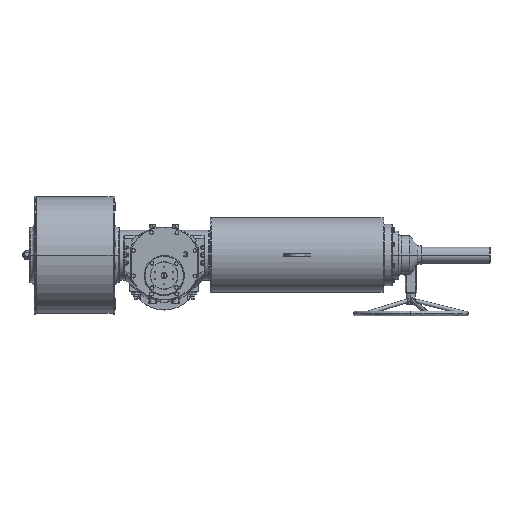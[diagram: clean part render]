
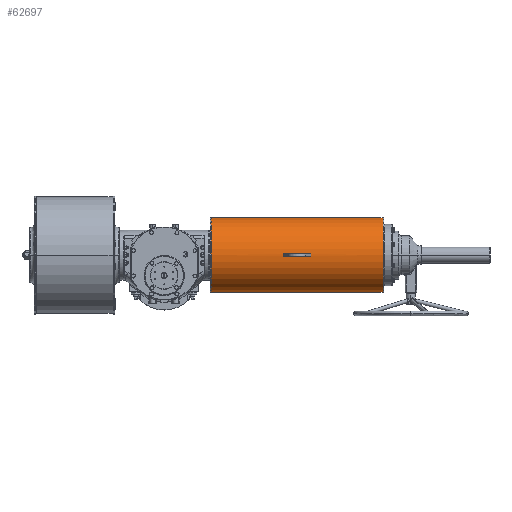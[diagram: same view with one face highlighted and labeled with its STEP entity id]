
A CAD part, top view. The second image highlights one B-rep face of the part: STEP entity #62697.
In plain terms, the highlighted cylindrical face has radius 162.5 mm (diameter 325 mm), a partial arc.
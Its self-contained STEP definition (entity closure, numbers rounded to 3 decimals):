
#1970 = CARTESIAN_POINT ( 'NONE',  ( 519.5, 35.5, 237. ) ) ;
#3750 = AXIS2_PLACEMENT_3D ( 'NONE', #6000, #37606, #84756 ) ;
#4312 = ORIENTED_EDGE ( 'NONE', *, *, #83769, .F. ) ;
#4345 = ORIENTED_EDGE ( 'NONE', *, *, #63463, .T. ) ;
#4705 = ORIENTED_EDGE ( 'NONE', *, *, #42283, .T. ) ;
#5704 = AXIS2_PLACEMENT_3D ( 'NONE', #70929, #39330, #47618 ) ;
#5840 = ORIENTED_EDGE ( 'NONE', *, *, #11290, .T. ) ;
#6000 = CARTESIAN_POINT ( 'NONE',  ( 639.5, 35.5, 74.5 ) ) ;
#6639 = CARTESIAN_POINT ( 'NONE',  ( 519.5, 35.5, 74.5 ) ) ;
#8039 = EDGE_CURVE ( 'NONE', #30702, #82574, #56864, .T. ) ;
#8495 = CARTESIAN_POINT ( 'NONE',  ( 954., 198., 74.5 ) ) ;
#10316 = ORIENTED_EDGE ( 'NONE', *, *, #43528, .T. ) ;
#10515 = DIRECTION ( 'NONE',  ( -1., 0., 0. ) ) ;
#11290 = EDGE_CURVE ( 'NONE', #71006, #30702, #98875, .T. ) ;
#11404 = VERTEX_POINT ( 'NONE', #45137 ) ;
#11789 = FACE_BOUND ( 'NONE', #70972, .T. ) ;
#12001 = AXIS2_PLACEMENT_3D ( 'NONE', #68266, #75017, #27898 ) ;
#13922 = CIRCLE ( 'NONE', #5704, 162.5 ) ;
#18198 = DIRECTION ( 'NONE',  ( -1., 0., 0. ) ) ;
#20709 = EDGE_CURVE ( 'NONE', #11404, #33912, #92979, .T. ) ;
#22139 = EDGE_CURVE ( 'NONE', #87173, #11404, #13922, .T. ) ;
#27898 = DIRECTION ( 'NONE',  ( 0., 1., 0. ) ) ;
#29755 = CIRCLE ( 'NONE', #92685, 162.5 ) ;
#30259 = CIRCLE ( 'NONE', #3750, 162.5 ) ;
#30702 = VERTEX_POINT ( 'NONE', #77482 ) ;
#33519 = VECTOR ( 'NONE', #53610, 1000. ) ;
#33912 = VERTEX_POINT ( 'NONE', #100721 ) ;
#34496 = VERTEX_POINT ( 'NONE', #8495 ) ;
#34631 = DIRECTION ( 'NONE',  ( 1., 0., 0. ) ) ;
#34770 = DIRECTION ( 'NONE',  ( 0., 1., 0. ) ) ;
#35396 = CARTESIAN_POINT ( 'NONE',  ( 519.5, 35.5, 74.5 ) ) ;
#35553 = ORIENTED_EDGE ( 'NONE', *, *, #22139, .T. ) ;
#37386 = EDGE_CURVE ( 'NONE', #52549, #49792, #53745, .T. ) ;
#37606 = DIRECTION ( 'NONE',  ( 1., 0., 0. ) ) ;
#39268 = DIRECTION ( 'NONE',  ( -1., 0., 0. ) ) ;
#39330 = DIRECTION ( 'NONE',  ( 1., 0., 0. ) ) ;
#40890 = DIRECTION ( 'NONE',  ( 0., -1., 0. ) ) ;
#41815 = CARTESIAN_POINT ( 'NONE',  ( 208., 40.5, 236.923 ) ) ;
#42283 = EDGE_CURVE ( 'NONE', #52549, #71006, #29755, .T. ) ;
#43416 = CYLINDRICAL_SURFACE ( 'NONE', #12001, 162.5 ) ;
#43528 = EDGE_CURVE ( 'NONE', #33912, #34496, #94505, .T. ) ;
#44422 = CARTESIAN_POINT ( 'NONE',  ( 208., 30.5, 236.923 ) ) ;
#45137 = CARTESIAN_POINT ( 'NONE',  ( 205., -127., 74.5 ) ) ;
#46504 = AXIS2_PLACEMENT_3D ( 'NONE', #50831, #18198, #34770 ) ;
#47618 = DIRECTION ( 'NONE',  ( 0., 1., 0. ) ) ;
#49792 = VERTEX_POINT ( 'NONE', #76298 ) ;
#50831 = CARTESIAN_POINT ( 'NONE',  ( 954., 35.5, 74.5 ) ) ;
#52224 = FACE_OUTER_BOUND ( 'NONE', #76741, .T. ) ;
#52549 = VERTEX_POINT ( 'NONE', #99964 ) ;
#53610 = DIRECTION ( 'NONE',  ( 1., 0., 0. ) ) ;
#53745 = LINE ( 'NONE', #44422, #88297 ) ;
#54828 = DIRECTION ( 'NONE',  ( 0., 1., 0. ) ) ;
#55606 = VERTEX_POINT ( 'NONE', #81991 ) ;
#56436 = ORIENTED_EDGE ( 'NONE', *, *, #8039, .T. ) ;
#56864 = LINE ( 'NONE', #41815, #94529 ) ;
#59418 = ORIENTED_EDGE ( 'NONE', *, *, #20709, .T. ) ;
#60499 = DIRECTION ( 'NONE',  ( 1., 0., 0. ) ) ;
#62697 = ADVANCED_FACE ( 'NONE', ( #11789, #52224 ), #43416, .T. ) ;
#63410 = AXIS2_PLACEMENT_3D ( 'NONE', #71987, #34631, #40890 ) ;
#63463 = EDGE_CURVE ( 'NONE', #82574, #55606, #91601, .T. ) ;
#63831 = DIRECTION ( 'NONE',  ( 1., 0., 0. ) ) ;
#64184 = ORIENTED_EDGE ( 'NONE', *, *, #76789, .T. ) ;
#68266 = CARTESIAN_POINT ( 'NONE',  ( 208., 35.5, 74.5 ) ) ;
#70146 = CARTESIAN_POINT ( 'NONE',  ( 208., -127., 74.5 ) ) ;
#70929 = CARTESIAN_POINT ( 'NONE',  ( 205., 35.5, 74.5 ) ) ;
#70972 = EDGE_LOOP ( 'NONE', ( #76878, #4705, #5840, #56436, #4345, #64184 ) ) ;
#71006 = VERTEX_POINT ( 'NONE', #1970 ) ;
#71987 = CARTESIAN_POINT ( 'NONE',  ( 639.5, 35.5, 74.5 ) ) ;
#73231 = DIRECTION ( 'NONE',  ( 0., 1., 0. ) ) ;
#75017 = DIRECTION ( 'NONE',  ( 1., 0., 0. ) ) ;
#75643 = VECTOR ( 'NONE', #63831, 1000. ) ;
#76298 = CARTESIAN_POINT ( 'NONE',  ( 639.5, 30.5, 236.923 ) ) ;
#76741 = EDGE_LOOP ( 'NONE', ( #35553, #59418, #10316, #4312 ) ) ;
#76789 = EDGE_CURVE ( 'NONE', #55606, #49792, #30259, .T. ) ;
#76878 = ORIENTED_EDGE ( 'NONE', *, *, #37386, .F. ) ;
#77482 = CARTESIAN_POINT ( 'NONE',  ( 519.5, 40.5, 236.923 ) ) ;
#78850 = CARTESIAN_POINT ( 'NONE',  ( 208., 198., 74.5 ) ) ;
#80180 = DIRECTION ( 'NONE',  ( 1., 0., 0. ) ) ;
#81991 = CARTESIAN_POINT ( 'NONE',  ( 639.5, 35.5, 237. ) ) ;
#82574 = VERTEX_POINT ( 'NONE', #87645 ) ;
#83769 = EDGE_CURVE ( 'NONE', #87173, #34496, #86123, .T. ) ;
#84756 = DIRECTION ( 'NONE',  ( 0., -1., 0. ) ) ;
#86123 = LINE ( 'NONE', #78850, #75643 ) ;
#87173 = VERTEX_POINT ( 'NONE', #100094 ) ;
#87645 = CARTESIAN_POINT ( 'NONE',  ( 639.5, 40.5, 236.923 ) ) ;
#88297 = VECTOR ( 'NONE', #60499, 1000. ) ;
#88909 = AXIS2_PLACEMENT_3D ( 'NONE', #6639, #39268, #54828 ) ;
#91601 = CIRCLE ( 'NONE', #63410, 162.5 ) ;
#92685 = AXIS2_PLACEMENT_3D ( 'NONE', #35396, #10515, #73231 ) ;
#92979 = LINE ( 'NONE', #70146, #33519 ) ;
#94505 = CIRCLE ( 'NONE', #46504, 162.5 ) ;
#94529 = VECTOR ( 'NONE', #80180, 1000. ) ;
#98875 = CIRCLE ( 'NONE', #88909, 162.5 ) ;
#99964 = CARTESIAN_POINT ( 'NONE',  ( 519.5, 30.5, 236.923 ) ) ;
#100094 = CARTESIAN_POINT ( 'NONE',  ( 205., 198., 74.5 ) ) ;
#100721 = CARTESIAN_POINT ( 'NONE',  ( 954., -127., 74.5 ) ) ;
